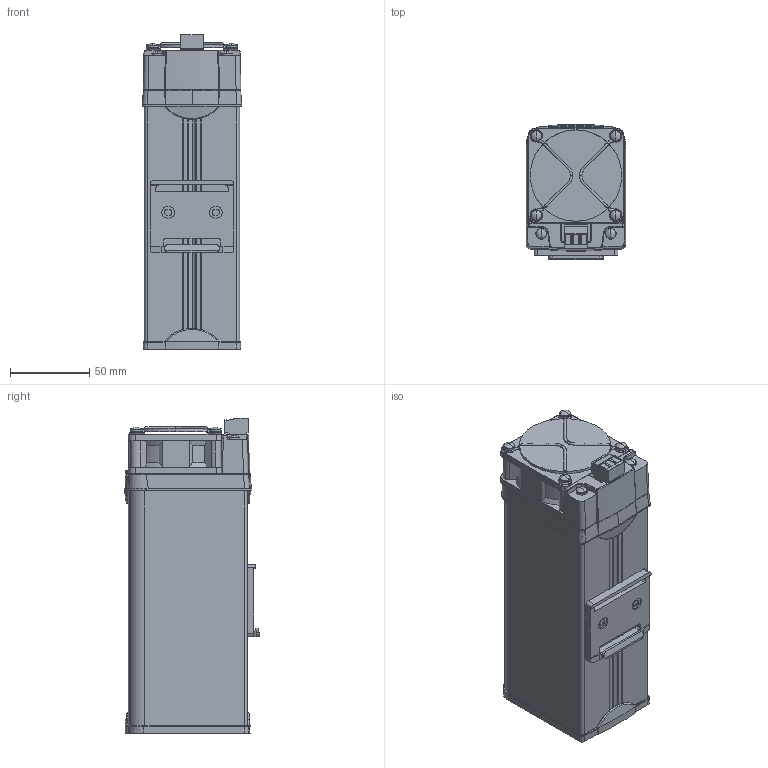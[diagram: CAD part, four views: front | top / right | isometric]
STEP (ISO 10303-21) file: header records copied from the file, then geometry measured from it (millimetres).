
FILE_DESCRIPTION (( 'STEP AP214' ), '1' );
FILE_NAME ('HVMS300(400)THP-300(X)-1.STEP', '2026-07-06T14:06:52', ( '' ), ( '' ), 'SwSTEP 2.0', 'SolidWorks 2022', '' );
FILE_SCHEMA (( 'AUTOMOTIVE_DESIGN' ));
Length unit declared in the file: millimetre
Products named in the file (13): Profilo dissipatore deformato_Lung.150mm semplificato; 60N_semplificata; HVMS300(400)THP-300(X)-1; Tappo Plastico di estremità_tappo semplificato; Vite ST3.5_semplificata; Copertura Alluminio_Lungh. L150 mm semplificata; Base plastica CLIP_CLIP-01 semplificata; DT-04687DSI_Default semplificata; DT-04535DSI_Metallica semplificata; DT-04539DSI_Semplificata; Vite ST3.5x38_semplificata; 2EDGKF-5.0-03P-04_semplificata
Assembly tree (20 placements, depth 2):
  HVMS300(400)THP-300(X)-1
    Profilo dissipatore deformato_Lung.150mm semplificato
    Copertura Alluminio_Lungh. L150 mm semplificata
    Copertura Alluminio_Lungh. L150 mm semplificata
    Base plastica CLIP_CLIP-01 semplificata
    Tappo Plastico di estremità_tappo semplificato
    Vite ST3.5_semplificata  x4
    Vite ST3.5x38_semplificata  x6
    DT-04539DSI_Semplificata
    DT-04535DSI_Metallica semplificata
    DT-04687DSI_Default semplificata
    60N_semplificata
    2EDGKF-5.0-03P-04_semplificata
Bounding box: 62.7 x 85.3 x 198.84 mm (x, y, z)
Volume: 796168.7 mm3; surface area: 147199.6 mm2
Topology: 22 solids, 30 shells, 1009 faces, 2627 edges, 1702 vertices
Faces by surface type: plane 428, cylinder 232, cone 189, bspline 98, torus 40, sphere 22
Entity records: 46731 total; most frequent: CARTESIAN_POINT 21384, ORIENTED_EDGE 5062, DIRECTION 4544, EDGE_CURVE 2531, VERTEX_POINT 1646, AXIS2_PLACEMENT_3D 1602, VECTOR 1340, LINE 1340
